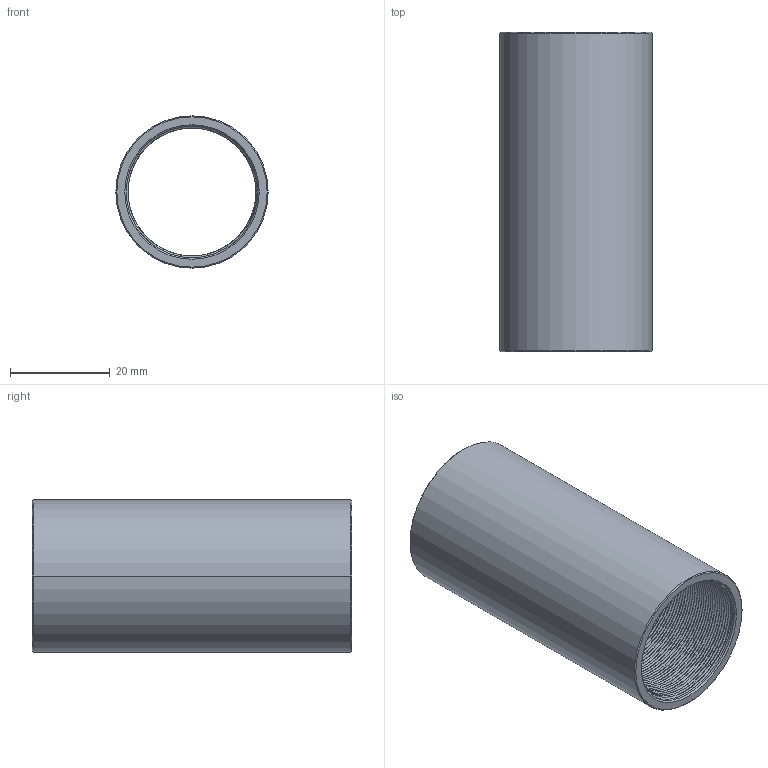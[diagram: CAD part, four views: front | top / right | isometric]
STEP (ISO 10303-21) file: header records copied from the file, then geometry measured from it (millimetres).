
FILE_DESCRIPTION((''),'2;1');
FILE_NAME('CSB-64','2020-10-15T',('Administrator'),(''),'CREO PARAMETRIC BY PTC INC, 2015290','CREO PARAMETRIC BY PTC INC, 2015290','');
FILE_SCHEMA(('CONFIG_CONTROL_DESIGN'));
Length unit declared in the file: millimetre
Products named in the file (1): CSB-64
Bounding box: 30.5 x 64 x 30.5 mm (x, y, z)
Volume: 12549.9 mm3; surface area: 14575.2 mm2
Topology: 1 solids, 1 shells, 263 faces, 749 edges, 488 vertices
Faces by surface type: cylinder 199, bspline 54, cone 8, plane 2
Entity records: 32571 total; most frequent: CARTESIAN_POINT 26790, ORIENTED_EDGE 1498, EDGE_CURVE 749, DIRECTION 710, VERTEX_POINT 488, B_SPLINE_CURVE_WITH_KNOTS 473, EDGE_LOOP 265, FACE_OUTER_BOUND 263
